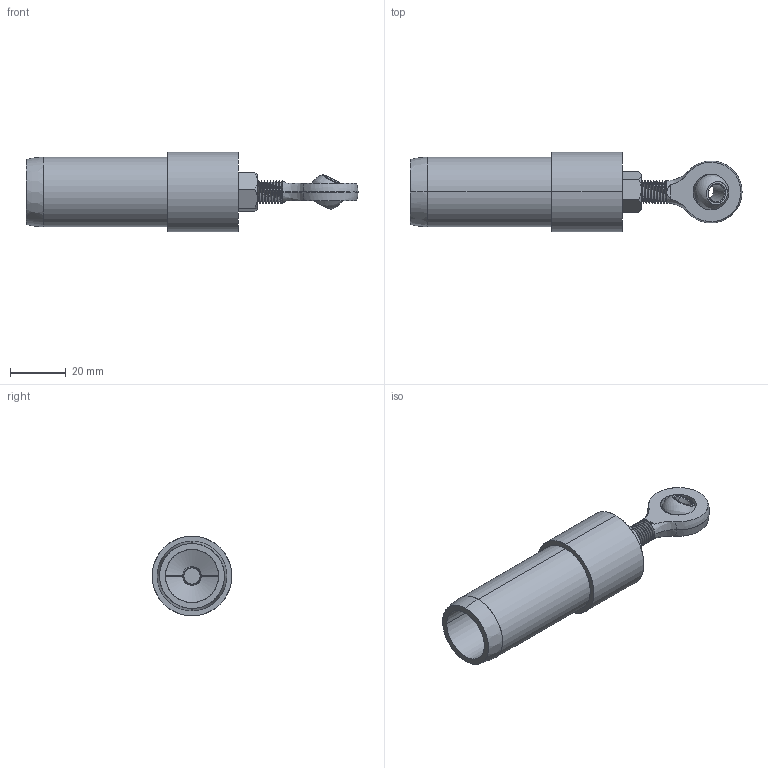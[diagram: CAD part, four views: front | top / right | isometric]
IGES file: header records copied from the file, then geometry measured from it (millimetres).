
Start section: SolidWorks IGES file using analytic representation for surfaces
Global section: file name: \\SERVER3\Design\_New Design Drive Folder List\_Design Vault\AAI\Modular Round Tube Connectors\Solidworks Models\STP Files\12202013\1.000 Inch Modular Connectors\DRP-002-0558-01.IGS; native system: SolidWorks 2013; preprocessor: SolidWorks 2013; author: tbraun; date: 131220.123116; units: inch
Bounding box: 119.06 x 28.57 x 28.57 mm (x, y, z)
Surface area: 15711 mm2 (no closed solid volume)
Topology: 0 solids, 0 shells, 169 faces, 2282 edges, 2279 vertices
Faces by surface type: revolution 132, bspline 37
